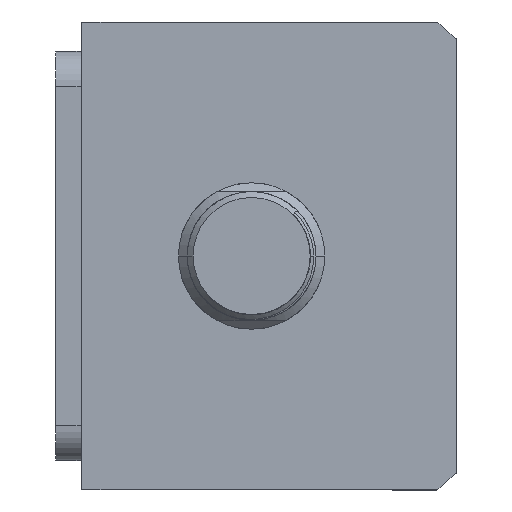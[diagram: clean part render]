
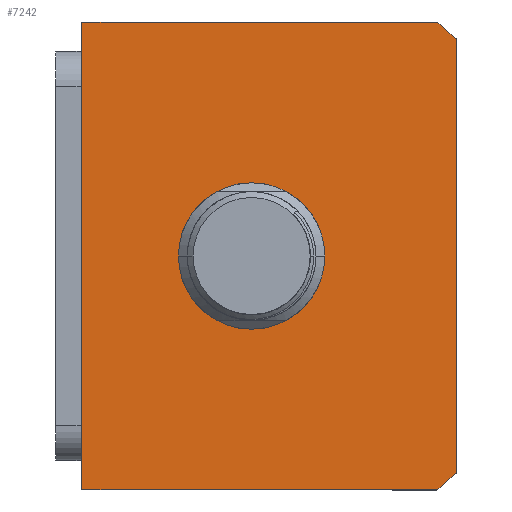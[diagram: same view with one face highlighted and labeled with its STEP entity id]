
A CAD part, front view. The second image highlights one B-rep face of the part: STEP entity #7242.
In plain terms, the highlighted planar face has unit normal (0, -1, 0) as drawn and (0, 0, -1) by its records, which use the part's own axes.
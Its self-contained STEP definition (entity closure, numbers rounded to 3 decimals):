
#105 = LINE ( 'NONE', #1378, #14254 ) ;
#192 = CARTESIAN_POINT ( 'NONE',  ( 0., 3., 0. ) ) ;
#356 = CARTESIAN_POINT ( 'NONE',  ( -40., -28.639, 0. ) ) ;
#606 = ORIENTED_EDGE ( 'NONE', *, *, #1462, .F. ) ;
#675 = AXIS2_PLACEMENT_3D ( 'NONE', #4678, #15607, #7404 ) ;
#694 = VECTOR ( 'NONE', #2906, 1000. ) ;
#723 = DIRECTION ( 'NONE',  ( 0., 0., 1. ) ) ;
#922 = CARTESIAN_POINT ( 'NONE',  ( -40., 32., 0. ) ) ;
#1136 = CARTESIAN_POINT ( 'NONE',  ( 0., 3., 0. ) ) ;
#1378 = CARTESIAN_POINT ( 'NONE',  ( 40., 32., 0. ) ) ;
#1462 = EDGE_CURVE ( 'NONE', #5661, #15549, #4379, .T. ) ;
#1494 = CARTESIAN_POINT ( 'NONE',  ( -12.5, 3., 0. ) ) ;
#1531 = AXIS2_PLACEMENT_3D ( 'NONE', #14358, #6173, #15731 ) ;
#1606 = DIRECTION ( 'NONE',  ( 1., 0., 0. ) ) ;
#1968 = CIRCLE ( 'NONE', #13683, 12.5 ) ;
#2129 = DIRECTION ( 'NONE',  ( 0., -1., 0. ) ) ;
#2281 = VECTOR ( 'NONE', #2129, 1000. ) ;
#2528 = DIRECTION ( 'NONE',  ( 1., 0., 0. ) ) ;
#2726 = CARTESIAN_POINT ( 'NONE',  ( -37.094, -32., 0. ) ) ;
#2906 = DIRECTION ( 'NONE',  ( -1., 0., 0. ) ) ;
#3162 = EDGE_LOOP ( 'NONE', ( #17516, #14319 ) ) ;
#3487 = CIRCLE ( 'NONE', #17492, 51. ) ;
#3846 = ORIENTED_EDGE ( 'NONE', *, *, #4820, .F. ) ;
#4022 = EDGE_LOOP ( 'NONE', ( #3846, #14751, #606, #15208, #4706, #8366 ) ) ;
#4169 = VERTEX_POINT ( 'NONE', #17585 ) ;
#4379 = LINE ( 'NONE', #12486, #694 ) ;
#4678 = CARTESIAN_POINT ( 'NONE',  ( 0., 0., 0. ) ) ;
#4706 = ORIENTED_EDGE ( 'NONE', *, *, #13967, .F. ) ;
#4820 = EDGE_CURVE ( 'NONE', #5526, #16131, #13914, .T. ) ;
#5494 = LINE ( 'NONE', #6249, #2281 ) ;
#5526 = VERTEX_POINT ( 'NONE', #356 ) ;
#5645 = VERTEX_POINT ( 'NONE', #16877 ) ;
#5661 = VERTEX_POINT ( 'NONE', #12903 ) ;
#5926 = EDGE_CURVE ( 'NONE', #6919, #5645, #16654, .T. ) ;
#6043 = DIRECTION ( 'NONE',  ( 1., 0., 0. ) ) ;
#6173 = DIRECTION ( 'NONE',  ( 0., 0., 1. ) ) ;
#6249 = CARTESIAN_POINT ( 'NONE',  ( -40., 32., 0. ) ) ;
#6919 = VERTEX_POINT ( 'NONE', #1494 ) ;
#7242 = ADVANCED_FACE ( 'NONE', ( #17497, #10692 ), #15498, .F. ) ;
#7404 = DIRECTION ( 'NONE',  ( 1., 0., 0. ) ) ;
#8366 = ORIENTED_EDGE ( 'NONE', *, *, #16445, .F. ) ;
#8948 = CARTESIAN_POINT ( 'NONE',  ( 0., 3., 0. ) ) ;
#9781 = EDGE_CURVE ( 'NONE', #5645, #6919, #1968, .T. ) ;
#9810 = DIRECTION ( 'NONE',  ( 0., 0., 1. ) ) ;
#10188 = VECTOR ( 'NONE', #6043, 1000. ) ;
#10235 = CARTESIAN_POINT ( 'NONE',  ( 37.094, -32., 0. ) ) ;
#10323 = DIRECTION ( 'NONE',  ( 1., 0., 0. ) ) ;
#10613 = AXIS2_PLACEMENT_3D ( 'NONE', #1136, #10741, #2528 ) ;
#10692 = FACE_OUTER_BOUND ( 'NONE', #4022, .T. ) ;
#10741 = DIRECTION ( 'NONE',  ( 0., 0., 1. ) ) ;
#12315 = VERTEX_POINT ( 'NONE', #10235 ) ;
#12486 = CARTESIAN_POINT ( 'NONE',  ( -40., 32., 0. ) ) ;
#12903 = CARTESIAN_POINT ( 'NONE',  ( 40., 32., 0. ) ) ;
#13683 = AXIS2_PLACEMENT_3D ( 'NONE', #8948, #723, #10323 ) ;
#13827 = LINE ( 'NONE', #14244, #10188 ) ;
#13914 = CIRCLE ( 'NONE', #1531, 51. ) ;
#13967 = EDGE_CURVE ( 'NONE', #12315, #4169, #3487, .T. ) ;
#14244 = CARTESIAN_POINT ( 'NONE',  ( -40., -32., 0. ) ) ;
#14254 = VECTOR ( 'NONE', #17753, 1000. ) ;
#14319 = ORIENTED_EDGE ( 'NONE', *, *, #5926, .T. ) ;
#14358 = CARTESIAN_POINT ( 'NONE',  ( 0., 3., 0. ) ) ;
#14751 = ORIENTED_EDGE ( 'NONE', *, *, #14824, .F. ) ;
#14824 = EDGE_CURVE ( 'NONE', #15549, #5526, #5494, .T. ) ;
#15192 = EDGE_CURVE ( 'NONE', #4169, #5661, #105, .T. ) ;
#15208 = ORIENTED_EDGE ( 'NONE', *, *, #15192, .F. ) ;
#15498 = PLANE ( 'NONE',  #675 ) ;
#15549 = VERTEX_POINT ( 'NONE', #922 ) ;
#15607 = DIRECTION ( 'NONE',  ( 0., 0., 1. ) ) ;
#15731 = DIRECTION ( 'NONE',  ( 1., 0., 0. ) ) ;
#16131 = VERTEX_POINT ( 'NONE', #2726 ) ;
#16445 = EDGE_CURVE ( 'NONE', #16131, #12315, #13827, .T. ) ;
#16654 = CIRCLE ( 'NONE', #10613, 12.5 ) ;
#16877 = CARTESIAN_POINT ( 'NONE',  ( 12.5, 3., 0. ) ) ;
#17492 = AXIS2_PLACEMENT_3D ( 'NONE', #192, #9810, #1606 ) ;
#17497 = FACE_BOUND ( 'NONE', #3162, .T. ) ;
#17516 = ORIENTED_EDGE ( 'NONE', *, *, #9781, .T. ) ;
#17585 = CARTESIAN_POINT ( 'NONE',  ( 40., -28.639, 0. ) ) ;
#17753 = DIRECTION ( 'NONE',  ( 0., 1., 0. ) ) ;
